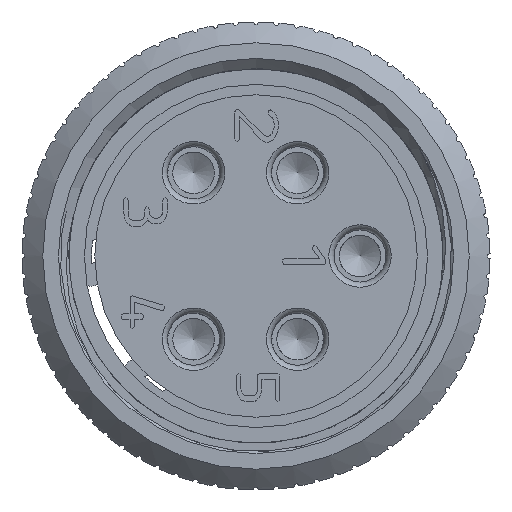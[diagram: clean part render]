
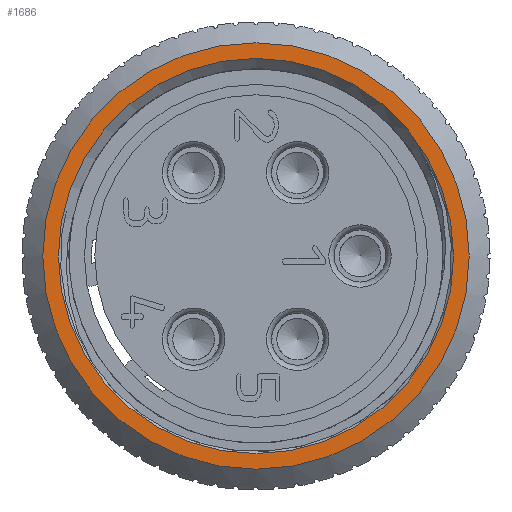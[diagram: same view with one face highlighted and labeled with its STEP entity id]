
A CAD part, left-side view. The second image highlights one B-rep face of the part: STEP entity #1686.
In plain terms, the highlighted planar face has unit normal (-1, 0, 0).
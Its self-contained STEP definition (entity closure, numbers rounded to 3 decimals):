
#1686=ADVANCED_FACE('',(#6942,#6944),#6946,.T.);
#6942=FACE_BOUND('',#6943,.T.);
#6943=EDGE_LOOP('',(#12315));
#6944=FACE_BOUND('',#6945,.T.);
#6945=EDGE_LOOP('',(#12316));
#6946=PLANE('',#6947);
#6947=AXIS2_PLACEMENT_3D('',#6948,#6949,#6950);
#6948=CARTESIAN_POINT('',(-25.881,0.,0.));
#6949=DIRECTION('',(-1.,0.,0.));
#6950=DIRECTION('',(0.,0.,1.));
#12315=ORIENTED_EDGE('',*,*,#14871,.T.);
#12316=ORIENTED_EDGE('',*,*,#14873,.F.);
#14871=EDGE_CURVE('',#16499,#16499,#16500,.T.);
#14873=EDGE_CURVE('',#16503,#16503,#16504,.T.);
#16499=VERTEX_POINT('',#23138);
#16500=CIRCLE('',#23139,10.25);
#16503=VERTEX_POINT('',#23148);
#16504=CIRCLE('',#23149,9.5);
#23138=CARTESIAN_POINT('',(-25.881,0.,10.25));
#23139=AXIS2_PLACEMENT_3D('',#23140,#23141,#23142);
#23140=CARTESIAN_POINT('',(-25.881,0.,0.));
#23141=DIRECTION('',(-1.,0.,0.));
#23142=DIRECTION('',(0.,0.,1.));
#23148=CARTESIAN_POINT('',(-25.881,0.,9.5));
#23149=AXIS2_PLACEMENT_3D('',#23150,#23151,#23152);
#23150=CARTESIAN_POINT('',(-25.881,0.,0.));
#23151=DIRECTION('',(-1.,0.,0.));
#23152=DIRECTION('',(0.,0.,1.));
